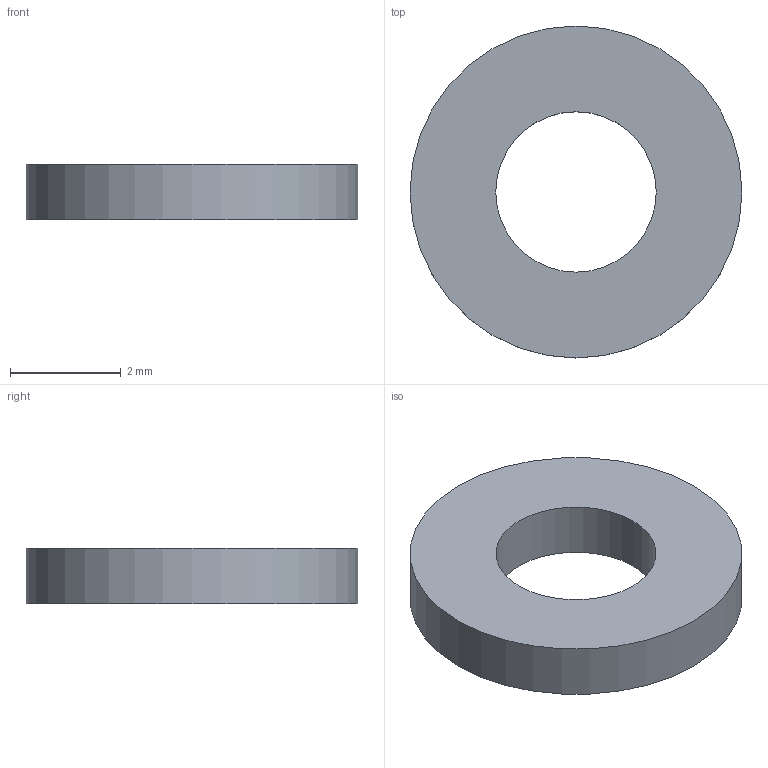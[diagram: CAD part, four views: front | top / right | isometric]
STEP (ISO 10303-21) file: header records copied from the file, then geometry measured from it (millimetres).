
FILE_DESCRIPTION(('Open CASCADE Model'),'2;1');
FILE_NAME('Open CASCADE Shape Model','2026-10-01T00:49:01',('Author'),( 'Open CASCADE'),'Open CASCADE STEP processor 7.9','Open CASCADE 7.9' ,'Unknown');
FILE_SCHEMA(('AUTOMOTIVE_DESIGN { 1 0 10303 214 1 1 1 1 }'));
Length unit declared in the file: millimetre
Products named in the file (1): Open CASCADE STEP translator 7.9 7
Bounding box: 6 x 6 x 1 mm (x, y, z)
Volume: 21.7 mm3; surface area: 71.3 mm2
Topology: 1 solids, 1 shells, 4 faces, 6 edges, 4 vertices
Faces by surface type: cylinder 2, plane 2
Full cylindrical faces by diameter (mm): 2.9 x1, 6 x1
Entity records: 192 total; most frequent: CARTESIAN_POINT 39, DIRECTION 30, ORIENTED_EDGE 12, PCURVE 12, DEFINITIONAL_REPRESENTATION 12, LINE 10, VECTOR 10, AXIS2_PLACEMENT_3D 9
